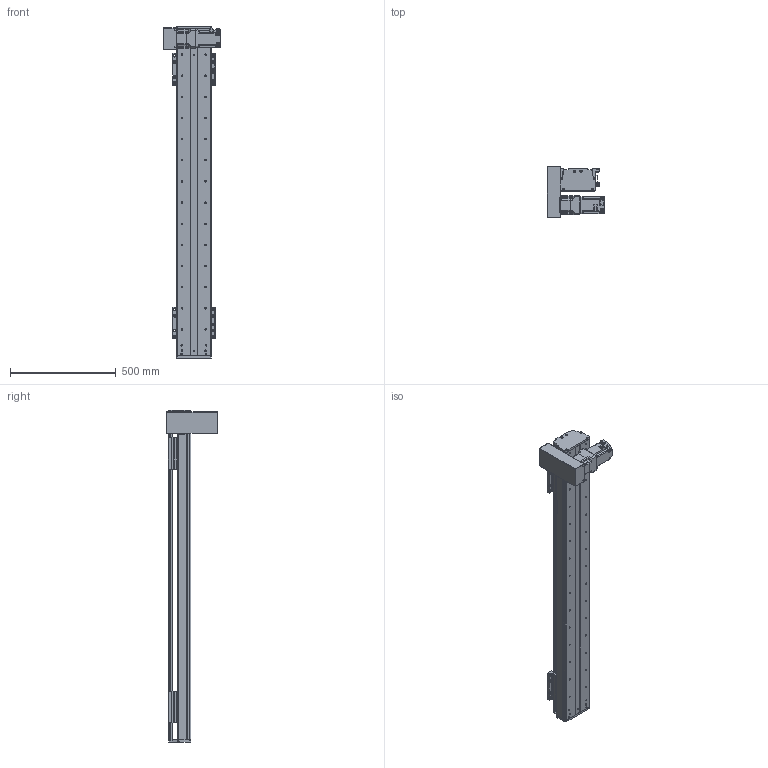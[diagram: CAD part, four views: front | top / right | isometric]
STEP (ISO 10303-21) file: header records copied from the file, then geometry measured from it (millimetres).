
FILE_DESCRIPTION(/* description */ (''),/* implementation_level */ '2;1');
FILE_NAME(/* name */ 'C:\Users\PC\Desktop\3D도면\STEP\DSB165-DL7G-W1200-R.stp',/* time_stamp */ '2018-06-25T15:38:12+09:00',/* author */ ('PC'),/* organization */ (''),/* preprocessor_version */ 'ST-DEVELOPER v16.5',/* originating_system */ 'Autodesk Inventor 2017',/* authorisation */ '');
FILE_SCHEMA (('AUTOMOTIVE_DESIGN { 1 0 10303 214 3 1 1 }'));
Length unit declared in the file: millimetre
Products named in the file (12): DSB165-L; DSR165-BASE_S; hg-kr73_; ab0901-p0401300102; 11-DBS165 BELT COVER; DBS165-COVER; DBS165-COVER_1; DBS165-UP COVER; DBS165-TABLE(MSA20S); DSR126-SENSOR DOG; SENSOR BRACKET(EE-SX674A); pm-y65_step
Assembly tree (16 placements, depth 2):
  DSB165-L
    DSR165-BASE_S
    hg-kr73_
    ab0901-p0401300102
    11-DBS165 BELT COVER
    DBS165-COVER
    DBS165-COVER_1
    DBS165-UP COVER
    DBS165-TABLE(MSA20S)  x2
    DSR126-SENSOR DOG
    pm-y65_step  x3
    SENSOR BRACKET(EE-SX674A)  x3
Bounding box: 270 x 242 x 1570 mm (x, y, z)
Volume: 9782332.8 mm3; surface area: 2271408.1 mm2
Topology: 17 solids, 22 shells, 1683 faces, 4515 edges, 2976 vertices
Faces by surface type: plane 926, cylinder 627, cone 118, sphere 8, torus 4
Full cylindrical faces by diameter (mm): 2.459 x20, 3.5 x6, 4.134 x42, 4.5 x18, 5 x27, 5.5 x36, 5.9 x4, 6 x8, 6.6 x14, 6.647 x46, 6.8 x1, 7 x4, 7.6 x4, 8 x1, 8.4 x1, 8.5 x24, 8.7 x1, 9.5 x32, 11 x6, 14 x16, 19 x1, 22 x1, 24 x1, 25 x1, 28 x1, 67 x1, 70 x2, 80 x1
Entity records: 35789 total; most frequent: DIRECTION 6332, CARTESIAN_POINT 6127, ORIENTED_EDGE 5566, EDGE_CURVE 2788, AXIS2_PLACEMENT_3D 2336, VERTEX_POINT 1993, EDGE_LOOP 1763, LINE 1660
